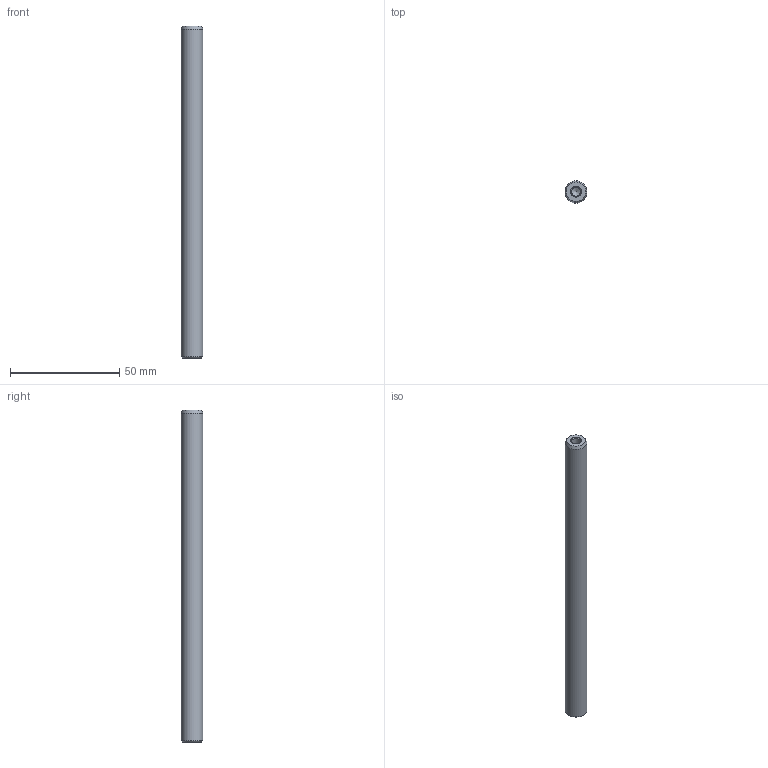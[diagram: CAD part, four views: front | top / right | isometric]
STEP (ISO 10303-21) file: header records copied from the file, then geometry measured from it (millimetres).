
FILE_DESCRIPTION( ( 'STEP AP214' ), '1' );
FILE_NAME( 'U:/Etudes/Top Solid/BIBLIO 3D AVM/STEP/PNEUMATIQUE/GUIDAGES/Accessoires/Colonnes/Ø10x152.step', '2004-12-22T12:24:06', ( ' ' ), ( ' ' ), 'XStep 1.0', ' ', ' ' );
FILE_SCHEMA( ( 'automotive_design' ) );
Length unit declared in the file: metre
Products named in the file (1): 1
Bounding box: 10 x 10 x 152 mm (x, y, z)
Volume: 11551.4 mm3; surface area: 5250.5 mm2
Topology: 1 solids, 1 shells, 13 faces, 27 edges, 16 vertices
Faces by surface type: cone 6, cylinder 5, plane 2
Full cylindrical faces by diameter (mm): 4.134 x4, 10 x1
Entity records: 382 total; most frequent: DIRECTION 52, CARTESIAN_POINT 40, AXIS2_PLACEMENT_3D 26, EDGE_LOOP 24, ORIENTED_EDGE 24, FACE_OUTER_BOUND 18, VERTEX_POINT 14, STYLED_ITEM 13
